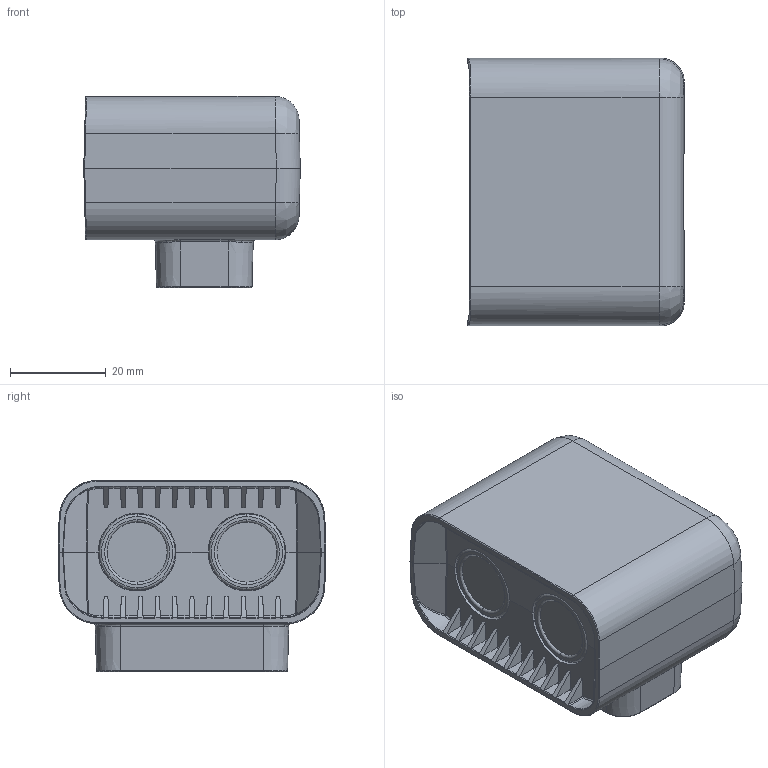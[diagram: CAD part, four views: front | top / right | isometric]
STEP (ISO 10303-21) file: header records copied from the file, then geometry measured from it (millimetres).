
FILE_DESCRIPTION((''),'2;1');
FILE_NAME('USBETA_ASM_ASM','2019-07-01T',('Administrator'),(''),'PRO/ENGINEER BY PARAMETRIC TECHNOLOGY CORPORATION, 2007450','PRO/ENGINEER BY PARAMETRIC TECHNOLOGY CORPORATION, 2007450','');
FILE_SCHEMA(('AUTOMOTIVE_DESIGN_CC2 { 1 2 10303 214 -1 1 5 2 }'));
Length unit declared in the file: millimetre
Products named in the file (21): USCA_1; USCA-2; USCA_2_ANY_ASM_1_ASM; BOARD_STEP_ANY_1; HC-SR04_PCB__1__STEP_ANY_ASM_1_ASM; USPCBA_ANY_ASM_1_ASM; PRT0010_1; PRT0008_1; PRT0007_1; PRT0002_1; PRT0003_1; PRT0004_1; PRT0005_1; ASM0006_ASM_1_ASM; PRT0011_1; PRT0009_1; ASM0005_ASM_1_ASM; RJ45_5721-L_1LAST_VERSION; USBETA_ANY_ASM_2_ASM; USBETA_ASM_1_ASM; USBETA_ASM_ASM
Assembly tree (22 placements, depth 6):
  USBETA_ASM_ASM
    USBETA_ASM_1_ASM
      USBETA_ANY_ASM_2_ASM
        USCA_2_ANY_ASM_1_ASM
          USCA_1
          USCA-2
        USPCBA_ANY_ASM_1_ASM
          HC-SR04_PCB__1__STEP_ANY_ASM_1_ASM
            BOARD_STEP_ANY_1
        ASM0005_ASM_1_ASM
          PRT0010_1
          PRT0008_1  x2
          PRT0007_1
          ASM0006_ASM_1_ASM  x2
            PRT0002_1
            PRT0003_1
            PRT0004_1
            PRT0005_1
          PRT0011_1
          PRT0009_1
        RJ45_5721-L_1LAST_VERSION
Bounding box: 45.32 x 56 x 40 mm (x, y, z)
Volume: 27635.6 mm3; surface area: 36635 mm2
Topology: 18 solids, 18 shells, 2060 faces, 5713 edges, 3739 vertices
Faces by surface type: plane 1244, cylinder 561, cone 160, torus 47, bspline 44, sphere 2, extrusion 2
Entity records: 88693 total; most frequent: CARTESIAN_POINT 14686, ORIENTED_EDGE 11082, DIRECTION 10585, PRESENTATION_STYLE_ASSIGNMENT 6030, EDGE_CURVE 5541, STYLED_ITEM 5455, CURVE_STYLE 5441, VECTOR 3837
